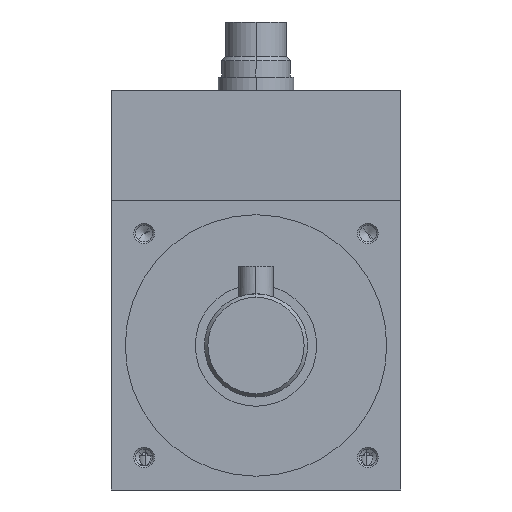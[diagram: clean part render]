
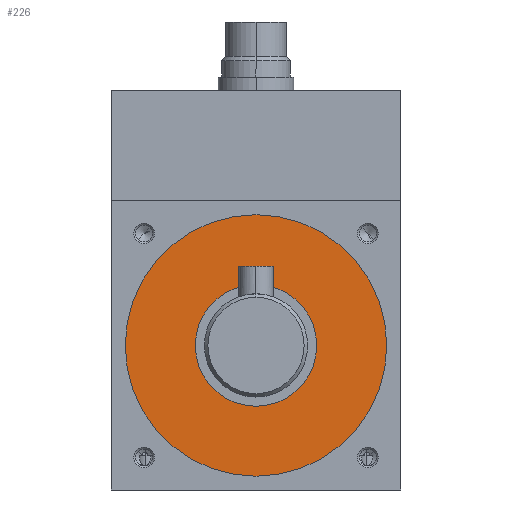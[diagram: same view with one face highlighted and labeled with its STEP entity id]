
A CAD part, left-side view. The second image highlights one B-rep face of the part: STEP entity #226.
In plain terms, the highlighted planar face has unit normal (-1, 0, 0).
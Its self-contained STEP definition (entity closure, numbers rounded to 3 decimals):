
#226=ADVANCED_FACE('',(#597,#598),#599,.T.);
#597=FACE_BOUND('',#1034,.T.);
#598=FACE_OUTER_BOUND('',#1035,.T.);
#599=PLANE('',#1036);
#1034=EDGE_LOOP('',(#2252,#2253));
#1035=EDGE_LOOP('',(#2254,#2255));
#1036=AXIS2_PLACEMENT_3D('',#2256,#2257,#2258);
#2252=ORIENTED_EDGE('',*,*,#2997,.T.);
#2253=ORIENTED_EDGE('',*,*,#2714,.T.);
#2254=ORIENTED_EDGE('',*,*,#3000,.T.);
#2255=ORIENTED_EDGE('',*,*,#2704,.T.);
#2256=CARTESIAN_POINT('',(31.0,0.0,0.0));
#2257=DIRECTION('',(-1.0,0.0,0.));
#2258=DIRECTION('',(0.,0.0,1.0));
#2704=EDGE_CURVE('',#3216,#3213,#3217,.T.);
#2714=EDGE_CURVE('',#3230,#3234,#3236,.T.);
#2997=EDGE_CURVE('',#3234,#3230,#3691,.T.);
#3000=EDGE_CURVE('',#3213,#3216,#3694,.T.);
#3213=VERTEX_POINT('',#4101);
#3216=VERTEX_POINT('',#4105);
#3217=CIRCLE('',#4106,19.0);
#3230=VERTEX_POINT('',#4122);
#3234=VERTEX_POINT('',#4127);
#3236=CIRCLE('',#4130,8.824);
#3691=CIRCLE('',#5331,8.824);
#3694=CIRCLE('',#5334,19.0);
#4101=CARTESIAN_POINT('',(31.0,0.0,-19.0));
#4105=CARTESIAN_POINT('',(31.0,0.,19.0));
#4106=AXIS2_PLACEMENT_3D('',#5578,#5579,#5580);
#4122=CARTESIAN_POINT('',(31.0,0.,-8.824));
#4127=CARTESIAN_POINT('',(31.0,0.,8.824));
#4130=AXIS2_PLACEMENT_3D('',#5598,#5599,#5600);
#5331=AXIS2_PLACEMENT_3D('',#6131,#6132,#6133);
#5334=AXIS2_PLACEMENT_3D('',#6140,#6141,#6142);
#5578=CARTESIAN_POINT('',(31.0,0.0,0.0));
#5579=DIRECTION('',(-1.0,0.0,0.));
#5580=DIRECTION('',(0.,0.0,-1.0));
#5598=CARTESIAN_POINT('',(31.0,0.0,0.));
#5599=DIRECTION('',(1.0,0.0,0.));
#5600=DIRECTION('',(0.,0.0,-1.0));
#6131=CARTESIAN_POINT('',(31.0,0.0,0.));
#6132=DIRECTION('',(1.0,0.0,0.));
#6133=DIRECTION('',(0.,0.0,-1.0));
#6140=CARTESIAN_POINT('',(31.0,0.0,0.0));
#6141=DIRECTION('',(-1.0,0.0,0.));
#6142=DIRECTION('',(0.,0.0,-1.0));
